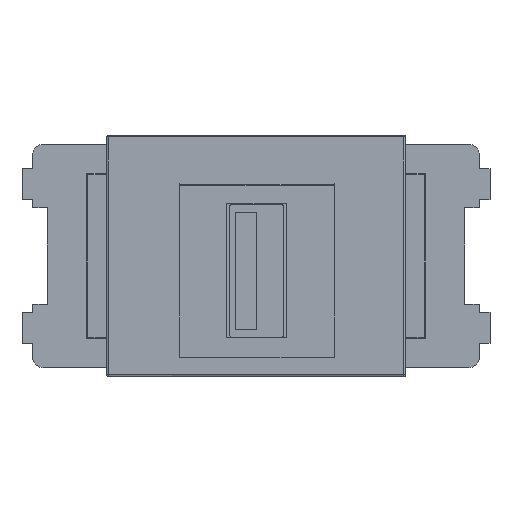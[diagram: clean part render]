
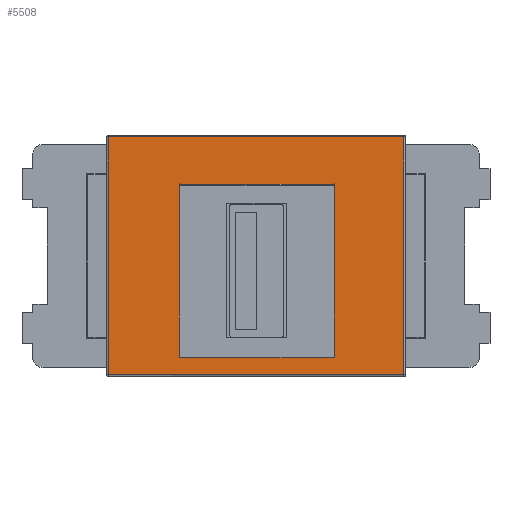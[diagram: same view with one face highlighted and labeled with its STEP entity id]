
A CAD part, top view. The second image highlights one B-rep face of the part: STEP entity #5508.
In plain terms, the highlighted free-form (B-spline) face has degree [1, 1] with [2, 2] control points.
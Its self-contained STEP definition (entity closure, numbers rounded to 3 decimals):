
#4263 = VERTEX_POINT('',#4264);
#4264 = CARTESIAN_POINT('',(13.885,-11.175,10.85));
#4334 = VERTEX_POINT('',#4335);
#4335 = CARTESIAN_POINT('',(-13.885,-11.175,10.85));
#4405 = VERTEX_POINT('',#4406);
#4406 = CARTESIAN_POINT('',(13.885,11.175,10.85));
#4486 = EDGE_CURVE('',#4405,#4263,#4487,.T.);
#4487 = B_SPLINE_CURVE_WITH_KNOTS('',5,(#4488,#4489,#4490,#4491,#4492,
    #4493),.UNSPECIFIED.,.F.,.F.,(6,6),(0.,22.35),
  .PIECEWISE_BEZIER_KNOTS.);
#4488 = CARTESIAN_POINT('',(13.885,11.175,10.85));
#4489 = CARTESIAN_POINT('',(13.885,6.705,10.85));
#4490 = CARTESIAN_POINT('',(13.885,2.235,10.85));
#4491 = CARTESIAN_POINT('',(13.885,-2.235,10.85));
#4492 = CARTESIAN_POINT('',(13.885,-6.705,10.85));
#4493 = CARTESIAN_POINT('',(13.885,-11.175,10.85));
#4559 = VERTEX_POINT('',#4560);
#4560 = CARTESIAN_POINT('',(-13.885,11.175,10.85));
#4640 = EDGE_CURVE('',#4559,#4405,#4641,.T.);
#4641 = B_SPLINE_CURVE_WITH_KNOTS('',5,(#4642,#4643,#4644,#4645,#4646,
    #4647),.UNSPECIFIED.,.F.,.F.,(6,6),(0.,27.77),
  .PIECEWISE_BEZIER_KNOTS.);
#4642 = CARTESIAN_POINT('',(-13.885,11.175,10.85));
#4643 = CARTESIAN_POINT('',(-8.331,11.175,10.85));
#4644 = CARTESIAN_POINT('',(-2.777,11.175,10.85));
#4645 = CARTESIAN_POINT('',(2.777,11.175,10.85));
#4646 = CARTESIAN_POINT('',(8.331,11.175,10.85));
#4647 = CARTESIAN_POINT('',(13.885,11.175,10.85));
#4723 = EDGE_CURVE('',#4334,#4559,#4724,.T.);
#4724 = B_SPLINE_CURVE_WITH_KNOTS('',5,(#4725,#4726,#4727,#4728,#4729,
    #4730),.UNSPECIFIED.,.F.,.F.,(6,6),(0.,22.35),
  .PIECEWISE_BEZIER_KNOTS.);
#4725 = CARTESIAN_POINT('',(-13.885,-11.175,10.85));
#4726 = CARTESIAN_POINT('',(-13.885,-6.705,10.85));
#4727 = CARTESIAN_POINT('',(-13.885,-2.235,10.85));
#4728 = CARTESIAN_POINT('',(-13.885,2.235,10.85));
#4729 = CARTESIAN_POINT('',(-13.885,6.705,10.85));
#4730 = CARTESIAN_POINT('',(-13.885,11.175,10.85));
#4806 = EDGE_CURVE('',#4263,#4334,#4807,.T.);
#4807 = B_SPLINE_CURVE_WITH_KNOTS('',5,(#4808,#4809,#4810,#4811,#4812,
    #4813),.UNSPECIFIED.,.F.,.F.,(6,6),(0.,27.77),
  .PIECEWISE_BEZIER_KNOTS.);
#4808 = CARTESIAN_POINT('',(13.885,-11.175,10.85));
#4809 = CARTESIAN_POINT('',(8.331,-11.175,10.85));
#4810 = CARTESIAN_POINT('',(2.777,-11.175,10.85));
#4811 = CARTESIAN_POINT('',(-2.777,-11.175,10.85));
#4812 = CARTESIAN_POINT('',(-8.331,-11.175,10.85));
#4813 = CARTESIAN_POINT('',(-13.885,-11.175,10.85));
#5508 = ADVANCED_FACE('',(#5509,#5515),#5561,.F.);
#5509 = FACE_BOUND('',#5510,.F.);
#5510 = EDGE_LOOP('',(#5511,#5512,#5513,#5514));
#5511 = ORIENTED_EDGE('',*,*,#4806,.T.);
#5512 = ORIENTED_EDGE('',*,*,#4723,.T.);
#5513 = ORIENTED_EDGE('',*,*,#4640,.T.);
#5514 = ORIENTED_EDGE('',*,*,#4486,.T.);
#5515 = FACE_BOUND('',#5516,.F.);
#5516 = EDGE_LOOP('',(#5517,#5530,#5541,#5552));
#5517 = ORIENTED_EDGE('',*,*,#5518,.T.);
#5518 = EDGE_CURVE('',#5519,#5521,#5523,.T.);
#5519 = VERTEX_POINT('',#5520);
#5520 = CARTESIAN_POINT('',(-7.188,-9.51,10.85));
#5521 = VERTEX_POINT('',#5522);
#5522 = CARTESIAN_POINT('',(7.352,-9.51,10.85));
#5523 = B_SPLINE_CURVE_WITH_KNOTS('',5,(#5524,#5525,#5526,#5527,#5528,
    #5529),.UNSPECIFIED.,.F.,.F.,(6,6),(0.,14.54),
  .PIECEWISE_BEZIER_KNOTS.);
#5524 = CARTESIAN_POINT('',(-7.188,-9.51,10.85));
#5525 = CARTESIAN_POINT('',(-4.28,-9.51,10.85));
#5526 = CARTESIAN_POINT('',(-1.372,-9.51,10.85));
#5527 = CARTESIAN_POINT('',(1.536,-9.51,10.85));
#5528 = CARTESIAN_POINT('',(4.444,-9.51,10.85));
#5529 = CARTESIAN_POINT('',(7.352,-9.51,10.85));
#5530 = ORIENTED_EDGE('',*,*,#5531,.T.);
#5531 = EDGE_CURVE('',#5521,#5532,#5534,.T.);
#5532 = VERTEX_POINT('',#5533);
#5533 = CARTESIAN_POINT('',(7.352,6.71,10.85));
#5534 = B_SPLINE_CURVE_WITH_KNOTS('',5,(#5535,#5536,#5537,#5538,#5539,
    #5540),.UNSPECIFIED.,.F.,.F.,(6,6),(0.,16.22),
  .PIECEWISE_BEZIER_KNOTS.);
#5535 = CARTESIAN_POINT('',(7.352,-9.51,10.85));
#5536 = CARTESIAN_POINT('',(7.352,-6.266,10.85));
#5537 = CARTESIAN_POINT('',(7.352,-3.022,10.85));
#5538 = CARTESIAN_POINT('',(7.352,0.222,10.85));
#5539 = CARTESIAN_POINT('',(7.352,3.466,10.85));
#5540 = CARTESIAN_POINT('',(7.352,6.71,10.85));
#5541 = ORIENTED_EDGE('',*,*,#5542,.T.);
#5542 = EDGE_CURVE('',#5532,#5543,#5545,.T.);
#5543 = VERTEX_POINT('',#5544);
#5544 = CARTESIAN_POINT('',(-7.188,6.71,10.85));
#5545 = B_SPLINE_CURVE_WITH_KNOTS('',5,(#5546,#5547,#5548,#5549,#5550,
    #5551),.UNSPECIFIED.,.F.,.F.,(6,6),(0.,14.54),
  .PIECEWISE_BEZIER_KNOTS.);
#5546 = CARTESIAN_POINT('',(7.352,6.71,10.85));
#5547 = CARTESIAN_POINT('',(4.444,6.71,10.85));
#5548 = CARTESIAN_POINT('',(1.536,6.71,10.85));
#5549 = CARTESIAN_POINT('',(-1.372,6.71,10.85));
#5550 = CARTESIAN_POINT('',(-4.28,6.71,10.85));
#5551 = CARTESIAN_POINT('',(-7.188,6.71,10.85));
#5552 = ORIENTED_EDGE('',*,*,#5553,.T.);
#5553 = EDGE_CURVE('',#5543,#5519,#5554,.T.);
#5554 = B_SPLINE_CURVE_WITH_KNOTS('',5,(#5555,#5556,#5557,#5558,#5559,
    #5560),.UNSPECIFIED.,.F.,.F.,(6,6),(0.,16.22),
  .PIECEWISE_BEZIER_KNOTS.);
#5555 = CARTESIAN_POINT('',(-7.188,6.71,10.85));
#5556 = CARTESIAN_POINT('',(-7.188,3.466,10.85));
#5557 = CARTESIAN_POINT('',(-7.188,0.222,10.85));
#5558 = CARTESIAN_POINT('',(-7.188,-3.022,10.85));
#5559 = CARTESIAN_POINT('',(-7.188,-6.266,10.85));
#5560 = CARTESIAN_POINT('',(-7.188,-9.51,10.85));
#5561 = B_SPLINE_SURFACE_WITH_KNOTS('',1,1,(
    (#5562,#5563)
    ,(#5564,#5565
    )),.UNSPECIFIED.,.F.,.F.,.F.,(2,2),(2,2),(0.,1.243),(0.,1.)
  ,.PIECEWISE_BEZIER_KNOTS.);
#5562 = CARTESIAN_POINT('',(-13.885,11.175,10.85));
#5563 = CARTESIAN_POINT('',(-13.885,-11.175,10.85));
#5564 = CARTESIAN_POINT('',(13.885,11.175,10.85));
#5565 = CARTESIAN_POINT('',(13.885,-11.175,10.85));
